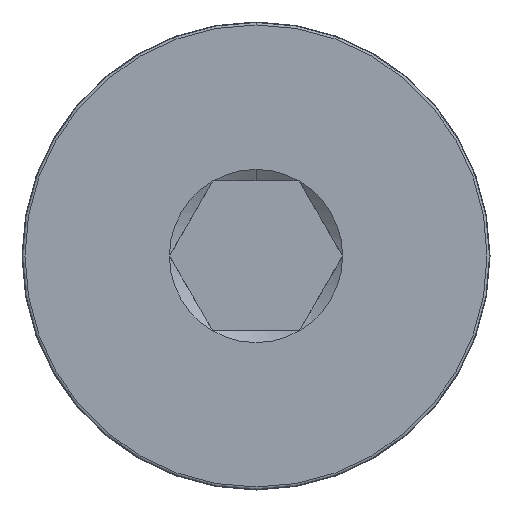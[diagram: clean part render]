
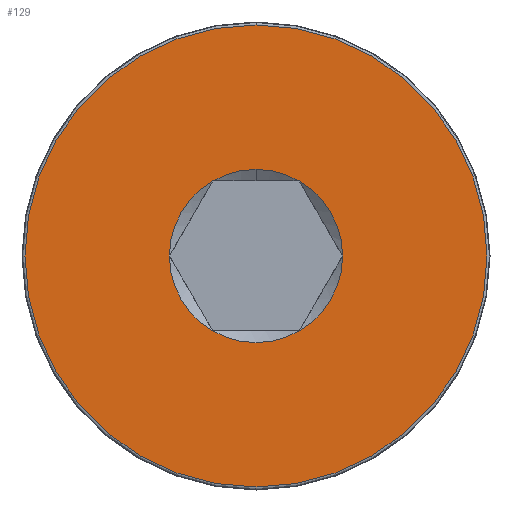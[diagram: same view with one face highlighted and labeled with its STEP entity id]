
A CAD part, left-side view. The second image highlights one B-rep face of the part: STEP entity #129.
In plain terms, the highlighted planar face has unit normal (-1, 0, 0).
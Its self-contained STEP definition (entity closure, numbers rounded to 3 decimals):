
#4 = EDGE_CURVE ( 'NONE', #172, #344, #721, .T. ) ;
#19 = DIRECTION ( 'NONE',  ( 0., 0., 1. ) ) ;
#31 = AXIS2_PLACEMENT_3D ( 'NONE', #257, #248, #260 ) ;
#38 = AXIS2_PLACEMENT_3D ( 'NONE', #154, #506, #751 ) ;
#41 = EDGE_CURVE ( 'NONE', #524, #176, #786, .T. ) ;
#55 = CARTESIAN_POINT ( 'NONE',  ( 0., 0.722, -1.25 ) ) ;
#65 = CARTESIAN_POINT ( 'NONE',  ( 0., 0.722, 1.25 ) ) ;
#72 = AXIS2_PLACEMENT_3D ( 'NONE', #672, #530, #364 ) ;
#80 = CARTESIAN_POINT ( 'NONE',  ( 0., 0., 0. ) ) ;
#81 = DIRECTION ( 'NONE',  ( 1., 0., 0. ) ) ;
#91 = ORIENTED_EDGE ( 'NONE', *, *, #167, .T. ) ;
#99 = AXIS2_PLACEMENT_3D ( 'NONE', #681, #745, #140 ) ;
#121 = DIRECTION ( 'NONE',  ( 0., 0., -1. ) ) ;
#129 = ADVANCED_FACE ( 'NONE', ( #747, #566 ), #761, .T. ) ;
#134 = CARTESIAN_POINT ( 'NONE',  ( 0., 0., 1.443 ) ) ;
#140 = DIRECTION ( 'NONE',  ( 0., 0., 1. ) ) ;
#144 = DIRECTION ( 'NONE',  ( -1., 0., 0. ) ) ;
#154 = CARTESIAN_POINT ( 'NONE',  ( 0., 0., 0. ) ) ;
#165 = AXIS2_PLACEMENT_3D ( 'NONE', #446, #336, #629 ) ;
#167 = EDGE_CURVE ( 'NONE', #788, #478, #639, .T. ) ;
#172 = VERTEX_POINT ( 'NONE', #646 ) ;
#176 = VERTEX_POINT ( 'NONE', #591 ) ;
#208 = ORIENTED_EDGE ( 'NONE', *, *, #795, .T. ) ;
#213 = CARTESIAN_POINT ( 'NONE',  ( 0., -0.722, 1.25 ) ) ;
#224 = DIRECTION ( 'NONE',  ( 0., 0., 1. ) ) ;
#225 = VERTEX_POINT ( 'NONE', #342 ) ;
#231 = CIRCLE ( 'NONE', #368, 1.443 ) ;
#246 = ORIENTED_EDGE ( 'NONE', *, *, #778, .T. ) ;
#248 = DIRECTION ( 'NONE',  ( 1., 0., 0. ) ) ;
#257 = CARTESIAN_POINT ( 'NONE',  ( 0., 0., 0. ) ) ;
#260 = DIRECTION ( 'NONE',  ( 0., 0., -1. ) ) ;
#294 = CIRCLE ( 'NONE', #99, 3.85 ) ;
#300 = ORIENTED_EDGE ( 'NONE', *, *, #567, .T. ) ;
#315 = VERTEX_POINT ( 'NONE', #55 ) ;
#333 = CARTESIAN_POINT ( 'NONE',  ( 0., 0., 3.85 ) ) ;
#336 = DIRECTION ( 'NONE',  ( 1., 0., 0. ) ) ;
#342 = CARTESIAN_POINT ( 'NONE',  ( 0., -0.722, -1.25 ) ) ;
#344 = VERTEX_POINT ( 'NONE', #65 ) ;
#358 = EDGE_LOOP ( 'NONE', ( #695, #771, #527, #600, #208, #469, #300 ) ) ;
#364 = DIRECTION ( 'NONE',  ( 0., 0., -1. ) ) ;
#368 = AXIS2_PLACEMENT_3D ( 'NONE', #444, #686, #121 ) ;
#389 = AXIS2_PLACEMENT_3D ( 'NONE', #780, #477, #224 ) ;
#398 = VERTEX_POINT ( 'NONE', #134 ) ;
#418 = CIRCLE ( 'NONE', #643, 1.443 ) ;
#425 = AXIS2_PLACEMENT_3D ( 'NONE', #690, #144, #19 ) ;
#444 = CARTESIAN_POINT ( 'NONE',  ( 0., 0., 0. ) ) ;
#446 = CARTESIAN_POINT ( 'NONE',  ( 0., 0., 0. ) ) ;
#469 = ORIENTED_EDGE ( 'NONE', *, *, #601, .T. ) ;
#477 = DIRECTION ( 'NONE',  ( -1., 0., 0. ) ) ;
#478 = VERTEX_POINT ( 'NONE', #333 ) ;
#493 = EDGE_LOOP ( 'NONE', ( #246, #91 ) ) ;
#506 = DIRECTION ( 'NONE',  ( 1., 0., 0. ) ) ;
#507 = CIRCLE ( 'NONE', #72, 1.443 ) ;
#524 = VERTEX_POINT ( 'NONE', #213 ) ;
#527 = ORIENTED_EDGE ( 'NONE', *, *, #589, .T. ) ;
#530 = DIRECTION ( 'NONE',  ( 1., 0., 0. ) ) ;
#540 = AXIS2_PLACEMENT_3D ( 'NONE', #624, #81, #631 ) ;
#566 = FACE_BOUND ( 'NONE', #358, .T. ) ;
#567 = EDGE_CURVE ( 'NONE', #315, #172, #776, .T. ) ;
#589 = EDGE_CURVE ( 'NONE', #398, #524, #418, .T. ) ;
#591 = CARTESIAN_POINT ( 'NONE',  ( 0., -1.443, 0. ) ) ;
#600 = ORIENTED_EDGE ( 'NONE', *, *, #41, .T. ) ;
#601 = EDGE_CURVE ( 'NONE', #225, #315, #660, .T. ) ;
#619 = DIRECTION ( 'NONE',  ( 0., 0., -1. ) ) ;
#624 = CARTESIAN_POINT ( 'NONE',  ( 0., 0., 0. ) ) ;
#629 = DIRECTION ( 'NONE',  ( 0., 0., -1. ) ) ;
#631 = DIRECTION ( 'NONE',  ( 0., 0., -1. ) ) ;
#639 = CIRCLE ( 'NONE', #389, 3.85 ) ;
#643 = AXIS2_PLACEMENT_3D ( 'NONE', #80, #689, #619 ) ;
#646 = CARTESIAN_POINT ( 'NONE',  ( 0., 1.443, 0. ) ) ;
#660 = CIRCLE ( 'NONE', #38, 1.443 ) ;
#663 = CARTESIAN_POINT ( 'NONE',  ( 0., 0., -3.85 ) ) ;
#672 = CARTESIAN_POINT ( 'NONE',  ( 0., 0., 0. ) ) ;
#681 = CARTESIAN_POINT ( 'NONE',  ( 0., 0., 0. ) ) ;
#686 = DIRECTION ( 'NONE',  ( 1., 0., 0. ) ) ;
#689 = DIRECTION ( 'NONE',  ( 1., 0., 0. ) ) ;
#690 = CARTESIAN_POINT ( 'NONE',  ( 0., 0., 0. ) ) ;
#695 = ORIENTED_EDGE ( 'NONE', *, *, #4, .T. ) ;
#721 = CIRCLE ( 'NONE', #31, 1.443 ) ;
#745 = DIRECTION ( 'NONE',  ( -1., 0., 0. ) ) ;
#747 = FACE_OUTER_BOUND ( 'NONE', #493, .T. ) ;
#751 = DIRECTION ( 'NONE',  ( 0., 0., -1. ) ) ;
#761 = PLANE ( 'NONE',  #425 ) ;
#771 = ORIENTED_EDGE ( 'NONE', *, *, #793, .T. ) ;
#776 = CIRCLE ( 'NONE', #165, 1.443 ) ;
#778 = EDGE_CURVE ( 'NONE', #478, #788, #294, .T. ) ;
#780 = CARTESIAN_POINT ( 'NONE',  ( 0., 0., 0. ) ) ;
#786 = CIRCLE ( 'NONE', #540, 1.443 ) ;
#788 = VERTEX_POINT ( 'NONE', #663 ) ;
#793 = EDGE_CURVE ( 'NONE', #344, #398, #231, .T. ) ;
#795 = EDGE_CURVE ( 'NONE', #176, #225, #507, .T. ) ;
